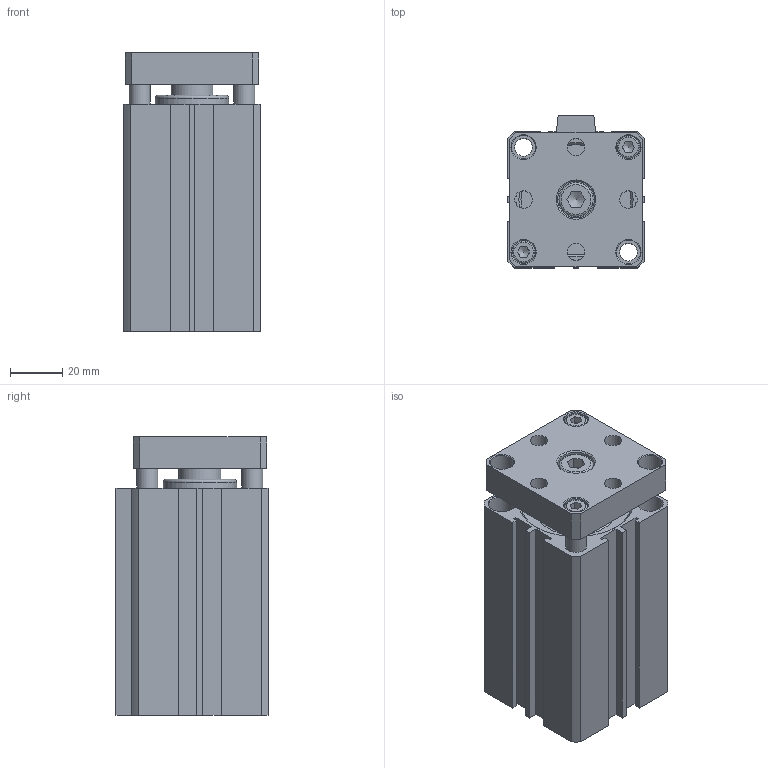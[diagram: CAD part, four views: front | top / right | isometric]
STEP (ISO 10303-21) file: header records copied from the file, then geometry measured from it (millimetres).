
FILE_DESCRIPTION((''),'2;1');
FILE_NAME('I:\3D電子目錄\氣缸\JTD\JTD\JTD40\JTD40x60.stp','2007-08-14T18:54:50',('Administrator'),(''),'Autodesk Inventor 11','Autodesk Inventor 11','');
FILE_SCHEMA(('AUTOMOTIVE_DESIGN { 1 0 10303 214 1 1 1 1 }'));
Length unit declared in the file: millimetre
Products named in the file (5): JTD40; R 形環 42; ISO 4762 M8 x 12; ISO 4762 M5 x 16
Assembly tree (5 placements, depth 2):
  JTD40
    JTD40
    R 形環 42
    ISO 4762 M8 x 12
    ISO 4762 M5 x 16  x2
Bounding box: 52 x 58 x 106.1 mm (x, y, z)
Volume: 231305.1 mm3; surface area: 54473.2 mm2
Topology: 5 solids, 5 shells, 195 faces, 448 edges, 290 vertices
Faces by surface type: plane 113, cylinder 43, cone 18, bspline 16, torus 5
Full cylindrical faces by diameter (mm): 1.9 x2, 2.2 x2, 5 x2, 6.8 x2, 8 x5, 8.5 x2, 9 x2, 9.5 x2, 10 x2, 13 x1, 16 x1, 28 x1, 29 x1, 42 x4, 44.5 x2
Entity records: 5157 total; most frequent: CARTESIAN_POINT 1103, DIRECTION 814, ORIENTED_EDGE 704, EDGE_CURVE 352, AXIS2_PLACEMENT_3D 299, EDGE_LOOP 294, VERTEX_POINT 266, VECTOR 216
